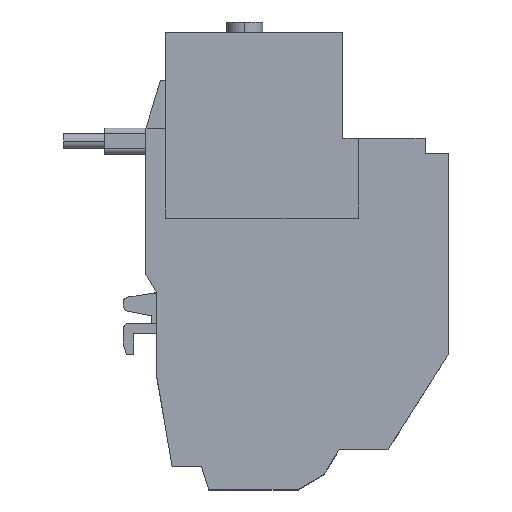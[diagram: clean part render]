
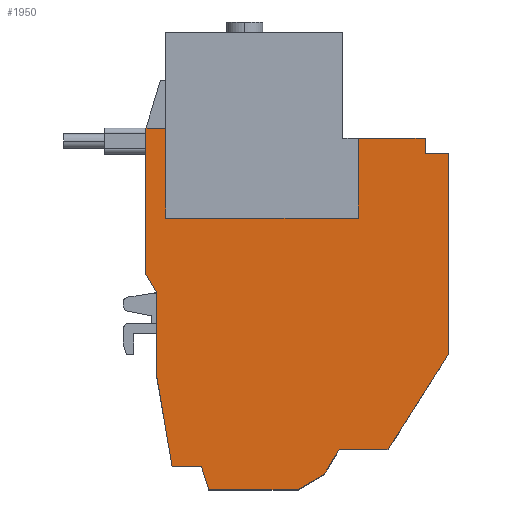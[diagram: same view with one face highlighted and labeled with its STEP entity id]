
A CAD part, top view. The second image highlights one B-rep face of the part: STEP entity #1950.
In plain terms, the highlighted planar face has unit normal (0, 0, 1).
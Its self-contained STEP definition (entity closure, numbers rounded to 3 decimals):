
#57 = CARTESIAN_POINT ( 'NONE',  ( -3.8, -47.083, 54. ) ) ;
#72 = DIRECTION ( 'NONE',  ( 0., -1., 0. ) ) ;
#124 = CARTESIAN_POINT ( 'NONE',  ( 1.28, -84.5, 54. ) ) ;
#128 = CARTESIAN_POINT ( 'NONE',  ( -1.7, -50.653, 54. ) ) ;
#129 = DIRECTION ( 'NONE',  ( 0.507, -0.862, 0. ) ) ;
#135 = DIRECTION ( 'NONE',  ( 0.168, -0.986, 0. ) ) ;
#752 = LINE ( 'NONE', #1705, #757 ) ;
#757 = VECTOR ( 'NONE', #1709, 1000. ) ;
#760 = LINE ( 'NONE', #1714, #763 ) ;
#763 = VECTOR ( 'NONE', #1715, 1000. ) ;
#1456 = CARTESIAN_POINT ( 'NONE',  ( 8.395, -89., 54. ) ) ;
#1461 = CARTESIAN_POINT ( 'NONE',  ( 25.795, -89., 54. ) ) ;
#1464 = CARTESIAN_POINT ( 'NONE',  ( 30.895, -86., 54. ) ) ;
#1500 = CARTESIAN_POINT ( 'NONE',  ( -1.7, -67.053, 54. ) ) ;
#1501 = CARTESIAN_POINT ( 'NONE',  ( -1.7, -50.653, 54. ) ) ;
#1514 = CARTESIAN_POINT ( 'NONE',  ( 55., -62.7, 54. ) ) ;
#1543 = CARTESIAN_POINT ( 'NONE',  ( 55., -23.7, 54. ) ) ;
#1544 = CARTESIAN_POINT ( 'NONE',  ( 50.5, -23.7, 54. ) ) ;
#1548 = CARTESIAN_POINT ( 'NONE',  ( 37.5, -36.2, 54. ) ) ;
#1549 = CARTESIAN_POINT ( 'NONE',  ( 0., -36.2, 54. ) ) ;
#1705 = CARTESIAN_POINT ( 'NONE',  ( 25.795, -89., 54. ) ) ;
#1709 = DIRECTION ( 'NONE',  ( 1., 0., 0. ) ) ;
#1714 = CARTESIAN_POINT ( 'NONE',  ( 30.895, -86., 54. ) ) ;
#1715 = DIRECTION ( 'NONE',  ( 0.862, 0.507, 0. ) ) ;
#1819 = VERTEX_POINT ( 'NONE', #2073 ) ;
#1826 = VERTEX_POINT ( 'NONE', #4644 ) ;
#1829 = VERTEX_POINT ( 'NONE', #4647 ) ;
#1837 = VERTEX_POINT ( 'NONE', #4655 ) ;
#1950 = ADVANCED_FACE ( 'NONE', ( #4318 ), #4987, .T. ) ;
#1995 = EDGE_CURVE ( 'NONE', #2143, #2146, #4382, .T. ) ;
#2018 = EDGE_CURVE ( 'NONE', #2146, #3273, #4426, .T. ) ;
#2031 = EDGE_CURVE ( 'NONE', #3281, #2088, #4444, .T. ) ;
#2035 = EDGE_CURVE ( 'NONE', #2088, #2080, #4452, .T. ) ;
#2059 = EDGE_CURVE ( 'NONE', #2080, #3393, #5834, .T. ) ;
#2073 = CARTESIAN_POINT ( 'NONE',  ( 37.5, -20.7, 54. ) ) ;
#2080 = VERTEX_POINT ( 'NONE', #5466 ) ;
#2088 = VERTEX_POINT ( 'NONE', #5473 ) ;
#2109 = VERTEX_POINT ( 'NONE', #5494 ) ;
#2143 = VERTEX_POINT ( 'NONE', #5528 ) ;
#2146 = VERTEX_POINT ( 'NONE', #5531 ) ;
#2251 = EDGE_CURVE ( 'NONE', #3393, #3419, #5869, .T. ) ;
#2252 = EDGE_CURVE ( 'NONE', #3420, #3419, #5873, .T. ) ;
#2253 = EDGE_CURVE ( 'NONE', #1826, #3420, #5875, .T. ) ;
#2254 = EDGE_CURVE ( 'NONE', #3424, #1819, #5871, .T. ) ;
#2255 = EDGE_CURVE ( 'NONE', #3425, #3424, #5877, .T. ) ;
#2256 = EDGE_CURVE ( 'NONE', #1837, #3425, #5879, .T. ) ;
#2314 = EDGE_CURVE ( 'NONE', #3318, #3317, #5981, .T. ) ;
#2336 = EDGE_CURVE ( 'NONE', #1837, #1829, #6037, .T. ) ;
#2352 = EDGE_CURVE ( 'NONE', #1826, #1819, #6066, .T. ) ;
#2397 = EDGE_CURVE ( 'NONE', #1829, #2109, #6126, .T. ) ;
#2420 = EDGE_CURVE ( 'NONE', #2109, #3318, #6175, .T. ) ;
#2423 = EDGE_CURVE ( 'NONE', #3317, #2143, #6140, .T. ) ;
#3049 = EDGE_LOOP ( 'NONE', ( #3585, #3586, #3587, #3588, #3589, #3590, #3591, #3592, #3593, #3594, #3595, #3596, #3597, #3598, #3599, #3600, #3601, #3602, #3603 ) ) ;
#3273 = VERTEX_POINT ( 'NONE', #1456 ) ;
#3278 = VERTEX_POINT ( 'NONE', #1461 ) ;
#3281 = VERTEX_POINT ( 'NONE', #1464 ) ;
#3317 = VERTEX_POINT ( 'NONE', #1500 ) ;
#3318 = VERTEX_POINT ( 'NONE', #1501 ) ;
#3393 = VERTEX_POINT ( 'NONE', #1514 ) ;
#3419 = VERTEX_POINT ( 'NONE', #1543 ) ;
#3420 = VERTEX_POINT ( 'NONE', #1544 ) ;
#3424 = VERTEX_POINT ( 'NONE', #1548 ) ;
#3425 = VERTEX_POINT ( 'NONE', #1549 ) ;
#3585 = ORIENTED_EDGE ( 'NONE', *, *, #2252, .F. ) ;
#3586 = ORIENTED_EDGE ( 'NONE', *, *, #2253, .F. ) ;
#3587 = ORIENTED_EDGE ( 'NONE', *, *, #2352, .T. ) ;
#3588 = ORIENTED_EDGE ( 'NONE', *, *, #2254, .F. ) ;
#3589 = ORIENTED_EDGE ( 'NONE', *, *, #2255, .F. ) ;
#3590 = ORIENTED_EDGE ( 'NONE', *, *, #2256, .F. ) ;
#3591 = ORIENTED_EDGE ( 'NONE', *, *, #2336, .T. ) ;
#3592 = ORIENTED_EDGE ( 'NONE', *, *, #2397, .T. ) ;
#3593 = ORIENTED_EDGE ( 'NONE', *, *, #2420, .T. ) ;
#3594 = ORIENTED_EDGE ( 'NONE', *, *, #2314, .T. ) ;
#3595 = ORIENTED_EDGE ( 'NONE', *, *, #2423, .T. ) ;
#3596 = ORIENTED_EDGE ( 'NONE', *, *, #1995, .T. ) ;
#3597 = ORIENTED_EDGE ( 'NONE', *, *, #2018, .T. ) ;
#3598 = ORIENTED_EDGE ( 'NONE', *, *, #4501, .T. ) ;
#3599 = ORIENTED_EDGE ( 'NONE', *, *, #4504, .T. ) ;
#3600 = ORIENTED_EDGE ( 'NONE', *, *, #2031, .T. ) ;
#3601 = ORIENTED_EDGE ( 'NONE', *, *, #2035, .T. ) ;
#3602 = ORIENTED_EDGE ( 'NONE', *, *, #2059, .T. ) ;
#3603 = ORIENTED_EDGE ( 'NONE', *, *, #2251, .T. ) ;
#4318 = FACE_OUTER_BOUND ( 'NONE', #3049, .T. ) ;
#4382 = LINE ( 'NONE', #5130, #4387 ) ;
#4387 = VECTOR ( 'NONE', #5136, 1000. ) ;
#4426 = LINE ( 'NONE', #5353, #4429 ) ;
#4429 = VECTOR ( 'NONE', #5354, 1000. ) ;
#4444 = LINE ( 'NONE', #5367, #4455 ) ;
#4452 = LINE ( 'NONE', #5370, #4463 ) ;
#4455 = VECTOR ( 'NONE', #5380, 1000. ) ;
#4463 = VECTOR ( 'NONE', #5388, 1000. ) ;
#4501 = EDGE_CURVE ( 'NONE', #3273, #3278, #752, .T. ) ;
#4504 = EDGE_CURVE ( 'NONE', #3278, #3281, #760, .T. ) ;
#4624 = AXIS2_PLACEMENT_3D ( 'NONE', #4979, #4989, #4990 ) ;
#4644 = CARTESIAN_POINT ( 'NONE',  ( 50.5, -20.7, 54. ) ) ;
#4647 = CARTESIAN_POINT ( 'NONE',  ( -3.8, -18.7, 54. ) ) ;
#4655 = CARTESIAN_POINT ( 'NONE',  ( 0., -18.7, 54. ) ) ;
#4979 = CARTESIAN_POINT ( 'NONE',  ( 0., 0., 54. ) ) ;
#4987 = PLANE ( 'NONE',  #4624 ) ;
#4989 = DIRECTION ( 'NONE',  ( 0., 0., 1. ) ) ;
#4990 = DIRECTION ( 'NONE',  ( 1., 0., 0. ) ) ;
#5130 = CARTESIAN_POINT ( 'NONE',  ( 6.98, -84.5, 54. ) ) ;
#5136 = DIRECTION ( 'NONE',  ( 1., 0., 0. ) ) ;
#5353 = CARTESIAN_POINT ( 'NONE',  ( 8.395, -89., 54. ) ) ;
#5354 = DIRECTION ( 'NONE',  ( 0.3, -0.954, 0. ) ) ;
#5367 = CARTESIAN_POINT ( 'NONE',  ( 33.78, -81.2, 54. ) ) ;
#5370 = CARTESIAN_POINT ( 'NONE',  ( 43.28, -81.2, 54. ) ) ;
#5380 = DIRECTION ( 'NONE',  ( 0.515, 0.857, 0. ) ) ;
#5388 = DIRECTION ( 'NONE',  ( 1., 0., 0. ) ) ;
#5433 = CARTESIAN_POINT ( 'NONE',  ( 43.28, -81.2, 54. ) ) ;
#5448 = DIRECTION ( 'NONE',  ( 0.535, 0.845, 0. ) ) ;
#5466 = CARTESIAN_POINT ( 'NONE',  ( 43.28, -81.2, 54. ) ) ;
#5473 = CARTESIAN_POINT ( 'NONE',  ( 33.78, -81.2, 54. ) ) ;
#5494 = CARTESIAN_POINT ( 'NONE',  ( -3.8, -47.083, 54. ) ) ;
#5528 = CARTESIAN_POINT ( 'NONE',  ( 1.28, -84.5, 54. ) ) ;
#5531 = CARTESIAN_POINT ( 'NONE',  ( 6.98, -84.5, 54. ) ) ;
#5560 = CARTESIAN_POINT ( 'NONE',  ( 55., -62.7, 54. ) ) ;
#5562 = CARTESIAN_POINT ( 'NONE',  ( 37.5, -20.7, 54. ) ) ;
#5564 = CARTESIAN_POINT ( 'NONE',  ( 37.5, -36.2, 54. ) ) ;
#5565 = DIRECTION ( 'NONE',  ( 0., 1., 0. ) ) ;
#5566 = CARTESIAN_POINT ( 'NONE',  ( 50.5, -23.7, 54. ) ) ;
#5567 = DIRECTION ( 'NONE',  ( 1., 0., 0. ) ) ;
#5568 = CARTESIAN_POINT ( 'NONE',  ( 50.5, -20.7, 54. ) ) ;
#5569 = CARTESIAN_POINT ( 'NONE',  ( 0., 0., 54. ) ) ;
#5570 = DIRECTION ( 'NONE',  ( 0., -1., 0. ) ) ;
#5571 = DIRECTION ( 'NONE',  ( 0., 1., 0. ) ) ;
#5573 = DIRECTION ( 'NONE',  ( 1., 0., 0. ) ) ;
#5575 = DIRECTION ( 'NONE',  ( 0., -1., 0. ) ) ;
#5670 = CARTESIAN_POINT ( 'NONE',  ( -1.7, -67.053, 54. ) ) ;
#5695 = DIRECTION ( 'NONE',  ( 0., -1., 0. ) ) ;
#5737 = CARTESIAN_POINT ( 'NONE',  ( 0., -18.7, 54. ) ) ;
#5738 = DIRECTION ( 'NONE',  ( -1., 0., 0. ) ) ;
#5773 = CARTESIAN_POINT ( 'NONE',  ( 55., -20.7, 54. ) ) ;
#5774 = DIRECTION ( 'NONE',  ( -1., 0., 0. ) ) ;
#5834 = LINE ( 'NONE', #5433, #5844 ) ;
#5844 = VECTOR ( 'NONE', #5448, 1000. ) ;
#5869 = LINE ( 'NONE', #5560, #5874 ) ;
#5871 = LINE ( 'NONE', #5562, #5880 ) ;
#5873 = LINE ( 'NONE', #5566, #5876 ) ;
#5874 = VECTOR ( 'NONE', #5565, 1000. ) ;
#5875 = LINE ( 'NONE', #5568, #5878 ) ;
#5876 = VECTOR ( 'NONE', #5567, 1000. ) ;
#5877 = LINE ( 'NONE', #5564, #5882 ) ;
#5878 = VECTOR ( 'NONE', #5570, 1000. ) ;
#5879 = LINE ( 'NONE', #5569, #5884 ) ;
#5880 = VECTOR ( 'NONE', #5571, 1000. ) ;
#5882 = VECTOR ( 'NONE', #5573, 1000. ) ;
#5884 = VECTOR ( 'NONE', #5575, 1000. ) ;
#5981 = LINE ( 'NONE', #5670, #5996 ) ;
#5996 = VECTOR ( 'NONE', #5695, 1000. ) ;
#6037 = LINE ( 'NONE', #5737, #6040 ) ;
#6040 = VECTOR ( 'NONE', #5738, 1000. ) ;
#6066 = LINE ( 'NONE', #5773, #6069 ) ;
#6069 = VECTOR ( 'NONE', #5774, 1000. ) ;
#6126 = LINE ( 'NONE', #57, #6143 ) ;
#6140 = LINE ( 'NONE', #124, #6184 ) ;
#6143 = VECTOR ( 'NONE', #72, 1000. ) ;
#6175 = LINE ( 'NONE', #128, #6178 ) ;
#6178 = VECTOR ( 'NONE', #129, 1000. ) ;
#6184 = VECTOR ( 'NONE', #135, 1000. ) ;
